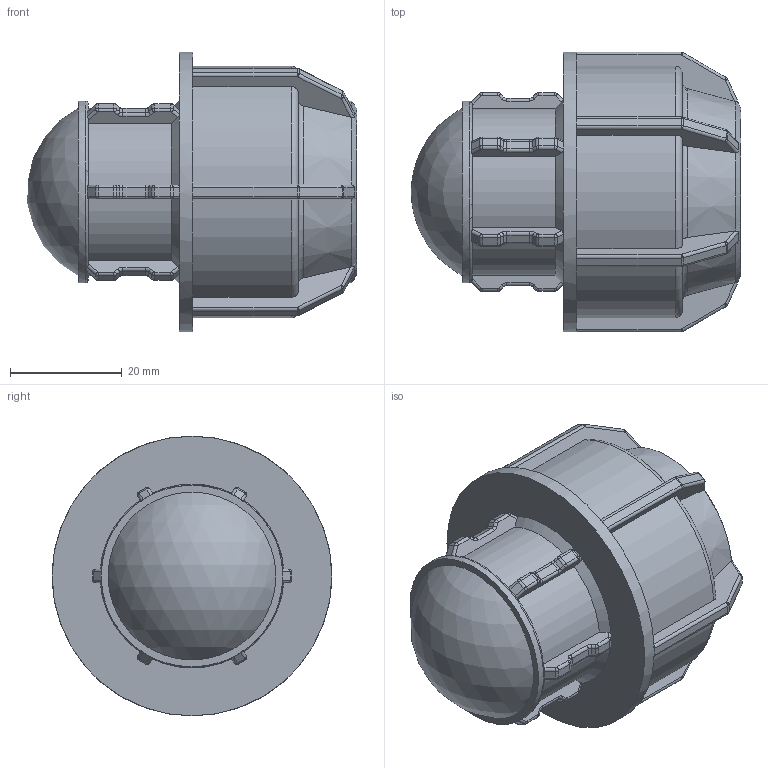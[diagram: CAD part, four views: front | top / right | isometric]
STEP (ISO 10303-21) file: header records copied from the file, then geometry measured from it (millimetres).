
FILE_DESCRIPTION(/* description */ ('PLASSON L.14 END PLUG (SILVER) 25'),/* implementation_level */ '2;1');
FILE_NAME(/* name */ 'C:\Dropbox\KIMPROJECTS-Inventor\99-16-3568-Processing\Silver+MF ISRAEL\141200\141200025.ipt.stp',/* time_stamp */ '2018-04-09T13:04:41+03:00',/* author */ ('KIM'),/* organization */ (''),/* preprocessor_version */ 'ST-DEVELOPER v15.6',/* originating_system */ 'Autodesk Inventor 2015',/* authorisation */ '');
FILE_SCHEMA (('AUTOMOTIVE_DESIGN { 1 0 10303 214 3 1 1 }'));
Length unit declared in the file: millimetre
Products named in the file (1): 141200025
Bounding box: 58.87 x 50 x 50 mm (x, y, z)
Volume: 37279.5 mm3; surface area: 15310.6 mm2
Topology: 1 solids, 1 shells, 466 faces, 1148 edges, 682 vertices
Faces by surface type: cylinder 184, plane 156, bspline 72, torus 39, cone 13, sphere 2
Full cylindrical faces by diameter (mm): 25 x2, 32.5 x1, 50 x1
Entity records: 14376 total; most frequent: CARTESIAN_POINT 3757, DIRECTION 2288, ORIENTED_EDGE 2240, EDGE_CURVE 1120, AXIS2_PLACEMENT_3D 919, VERTEX_POINT 670, CIRCLE 502, EDGE_LOOP 476
